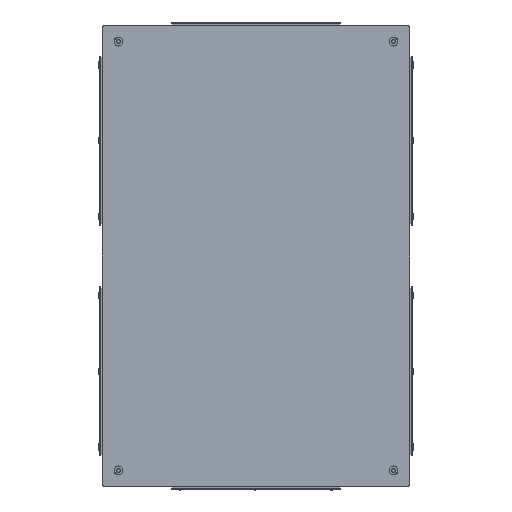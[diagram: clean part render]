
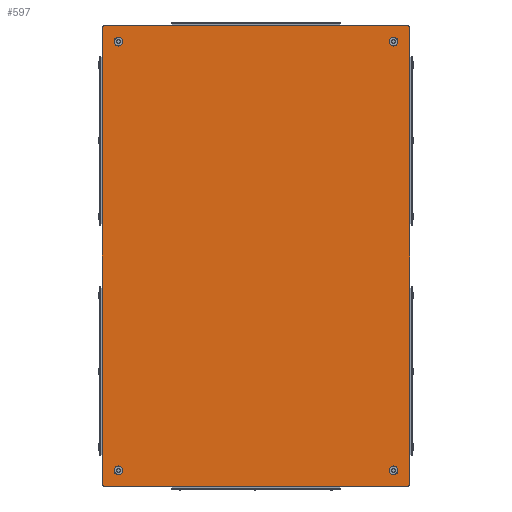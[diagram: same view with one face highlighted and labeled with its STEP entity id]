
A CAD part, front view. The second image highlights one B-rep face of the part: STEP entity #597.
In plain terms, the highlighted planar face has unit normal (0, -1, 0).
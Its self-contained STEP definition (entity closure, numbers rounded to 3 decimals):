
#597 = ADVANCED_FACE('',(#598,#618,#629,#649,#660),#782,.T.);
#598 = FACE_BOUND('',#599,.T.);
#599 = EDGE_LOOP('',(#600,#611));
#600 = ORIENTED_EDGE('',*,*,#601,.F.);
#601 = EDGE_CURVE('',#602,#604,#606,.T.);
#602 = VERTEX_POINT('',#603);
#603 = CARTESIAN_POINT('',(-179.,-1.2,-275.));
#604 = VERTEX_POINT('',#605);
#605 = CARTESIAN_POINT('',(-179.,-1.2,-283.));
#606 = CIRCLE('',#607,4.);
#607 = AXIS2_PLACEMENT_3D('',#608,#609,#610);
#608 = CARTESIAN_POINT('',(-179.,-1.2,-279.));
#609 = DIRECTION('',(0.,-1.,0.));
#610 = DIRECTION('',(0.,0.,1.));
#611 = ORIENTED_EDGE('',*,*,#612,.F.);
#612 = EDGE_CURVE('',#604,#602,#613,.T.);
#613 = CIRCLE('',#614,4.);
#614 = AXIS2_PLACEMENT_3D('',#615,#616,#617);
#615 = CARTESIAN_POINT('',(-179.,-1.2,-279.));
#616 = DIRECTION('',(0.,-1.,0.));
#617 = DIRECTION('',(0.,0.,1.));
#618 = FACE_BOUND('',#619,.T.);
#619 = EDGE_LOOP('',(#620));
#620 = ORIENTED_EDGE('',*,*,#621,.F.);
#621 = EDGE_CURVE('',#622,#622,#624,.T.);
#622 = VERTEX_POINT('',#623);
#623 = CARTESIAN_POINT('',(179.,-1.2,-283.));
#624 = CIRCLE('',#625,4.);
#625 = AXIS2_PLACEMENT_3D('',#626,#627,#628);
#626 = CARTESIAN_POINT('',(179.,-1.2,-279.));
#627 = DIRECTION('',(0.,-1.,0.));
#628 = DIRECTION('',(0.,0.,-1.));
#629 = FACE_BOUND('',#630,.T.);
#630 = EDGE_LOOP('',(#631,#642));
#631 = ORIENTED_EDGE('',*,*,#632,.F.);
#632 = EDGE_CURVE('',#633,#635,#637,.T.);
#633 = VERTEX_POINT('',#634);
#634 = CARTESIAN_POINT('',(179.,-1.2,283.));
#635 = VERTEX_POINT('',#636);
#636 = CARTESIAN_POINT('',(179.,-1.2,275.));
#637 = CIRCLE('',#638,4.);
#638 = AXIS2_PLACEMENT_3D('',#639,#640,#641);
#639 = CARTESIAN_POINT('',(179.,-1.2,279.));
#640 = DIRECTION('',(0.,-1.,0.));
#641 = DIRECTION('',(0.,0.,1.));
#642 = ORIENTED_EDGE('',*,*,#643,.F.);
#643 = EDGE_CURVE('',#635,#633,#644,.T.);
#644 = CIRCLE('',#645,4.);
#645 = AXIS2_PLACEMENT_3D('',#646,#647,#648);
#646 = CARTESIAN_POINT('',(179.,-1.2,279.));
#647 = DIRECTION('',(0.,-1.,0.));
#648 = DIRECTION('',(0.,0.,1.));
#649 = FACE_BOUND('',#650,.T.);
#650 = EDGE_LOOP('',(#651));
#651 = ORIENTED_EDGE('',*,*,#652,.F.);
#652 = EDGE_CURVE('',#653,#653,#655,.T.);
#653 = VERTEX_POINT('',#654);
#654 = CARTESIAN_POINT('',(-179.,-1.2,275.));
#655 = CIRCLE('',#656,4.);
#656 = AXIS2_PLACEMENT_3D('',#657,#658,#659);
#657 = CARTESIAN_POINT('',(-179.,-1.2,279.));
#658 = DIRECTION('',(0.,-1.,0.));
#659 = DIRECTION('',(0.,0.,-1.));
#660 = FACE_BOUND('',#661,.T.);
#661 = EDGE_LOOP('',(#662,#675,#686,#694,#705,#716,#724,#735,#746,#754,
    #765,#776));
#662 = ORIENTED_EDGE('',*,*,#663,.F.);
#663 = EDGE_CURVE('',#664,#666,#668,.T.);
#664 = VERTEX_POINT('',#665);
#665 = CARTESIAN_POINT('',(198.2,-1.2,298.2));
#666 = VERTEX_POINT('',#667);
#667 = CARTESIAN_POINT('',(200.,-1.2,298.574));
#668 = B_SPLINE_CURVE_WITH_KNOTS('',3,(#669,#670,#671,#672,#673,#674),
  .UNSPECIFIED.,.F.,.F.,(4,2,4),(0.004,0.005,
    0.006),.UNSPECIFIED.);
#669 = CARTESIAN_POINT('',(198.2,-1.2,298.2));
#670 = CARTESIAN_POINT('',(198.495,-1.2,298.287));
#671 = CARTESIAN_POINT('',(198.79,-1.2,298.371));
#672 = CARTESIAN_POINT('',(199.39,-1.2,298.498));
#673 = CARTESIAN_POINT('',(199.695,-1.2,298.543));
#674 = CARTESIAN_POINT('',(200.,-1.2,298.574));
#675 = ORIENTED_EDGE('',*,*,#676,.T.);
#676 = EDGE_CURVE('',#664,#677,#679,.T.);
#677 = VERTEX_POINT('',#678);
#678 = CARTESIAN_POINT('',(198.574,-1.2,300.));
#679 = B_SPLINE_CURVE_WITH_KNOTS('',3,(#680,#681,#682,#683,#684,#685),
  .UNSPECIFIED.,.F.,.F.,(4,2,4),(0.004,0.005,
    0.006),.UNSPECIFIED.);
#680 = CARTESIAN_POINT('',(198.2,-1.2,298.2));
#681 = CARTESIAN_POINT('',(198.287,-1.2,298.495));
#682 = CARTESIAN_POINT('',(198.371,-1.2,298.79));
#683 = CARTESIAN_POINT('',(198.498,-1.2,299.39));
#684 = CARTESIAN_POINT('',(198.543,-1.2,299.695));
#685 = CARTESIAN_POINT('',(198.574,-1.2,300.));
#686 = ORIENTED_EDGE('',*,*,#687,.T.);
#687 = EDGE_CURVE('',#677,#688,#690,.T.);
#688 = VERTEX_POINT('',#689);
#689 = CARTESIAN_POINT('',(-198.574,-1.2,300.));
#690 = LINE('',#691,#692);
#691 = CARTESIAN_POINT('',(3200.,-1.2,300.));
#692 = VECTOR('',#693,1.);
#693 = DIRECTION('',(-1.,0.,0.));
#694 = ORIENTED_EDGE('',*,*,#695,.F.);
#695 = EDGE_CURVE('',#696,#688,#698,.T.);
#696 = VERTEX_POINT('',#697);
#697 = CARTESIAN_POINT('',(-198.2,-1.2,298.2));
#698 = B_SPLINE_CURVE_WITH_KNOTS('',3,(#699,#700,#701,#702,#703,#704),
  .UNSPECIFIED.,.F.,.F.,(4,2,4),(0.004,0.005,
    0.006),.UNSPECIFIED.);
#699 = CARTESIAN_POINT('',(-198.2,-1.2,298.2));
#700 = CARTESIAN_POINT('',(-198.287,-1.2,298.495));
#701 = CARTESIAN_POINT('',(-198.371,-1.2,298.79));
#702 = CARTESIAN_POINT('',(-198.498,-1.2,299.39));
#703 = CARTESIAN_POINT('',(-198.543,-1.2,299.695));
#704 = CARTESIAN_POINT('',(-198.574,-1.2,300.));
#705 = ORIENTED_EDGE('',*,*,#706,.T.);
#706 = EDGE_CURVE('',#696,#707,#709,.T.);
#707 = VERTEX_POINT('',#708);
#708 = CARTESIAN_POINT('',(-200.,-1.2,298.574));
#709 = B_SPLINE_CURVE_WITH_KNOTS('',3,(#710,#711,#712,#713,#714,#715),
  .UNSPECIFIED.,.F.,.F.,(4,2,4),(0.004,0.005,
    0.006),.UNSPECIFIED.);
#710 = CARTESIAN_POINT('',(-198.2,-1.2,298.2));
#711 = CARTESIAN_POINT('',(-198.495,-1.2,298.287));
#712 = CARTESIAN_POINT('',(-198.79,-1.2,298.371));
#713 = CARTESIAN_POINT('',(-199.39,-1.2,298.498));
#714 = CARTESIAN_POINT('',(-199.695,-1.2,298.543));
#715 = CARTESIAN_POINT('',(-200.,-1.2,298.574));
#716 = ORIENTED_EDGE('',*,*,#717,.T.);
#717 = EDGE_CURVE('',#707,#718,#720,.T.);
#718 = VERTEX_POINT('',#719);
#719 = CARTESIAN_POINT('',(-200.,-1.2,-298.574));
#720 = LINE('',#721,#722);
#721 = CARTESIAN_POINT('',(-200.,-1.2,3300.));
#722 = VECTOR('',#723,1.);
#723 = DIRECTION('',(0.,0.,-1.));
#724 = ORIENTED_EDGE('',*,*,#725,.F.);
#725 = EDGE_CURVE('',#726,#718,#728,.T.);
#726 = VERTEX_POINT('',#727);
#727 = CARTESIAN_POINT('',(-198.2,-1.2,-298.2));
#728 = B_SPLINE_CURVE_WITH_KNOTS('',3,(#729,#730,#731,#732,#733,#734),
  .UNSPECIFIED.,.F.,.F.,(4,2,4),(0.004,0.005,
    0.006),.UNSPECIFIED.);
#729 = CARTESIAN_POINT('',(-198.2,-1.2,-298.2));
#730 = CARTESIAN_POINT('',(-198.495,-1.2,-298.287));
#731 = CARTESIAN_POINT('',(-198.79,-1.2,-298.371));
#732 = CARTESIAN_POINT('',(-199.39,-1.2,-298.498));
#733 = CARTESIAN_POINT('',(-199.695,-1.2,-298.543));
#734 = CARTESIAN_POINT('',(-200.,-1.2,-298.574));
#735 = ORIENTED_EDGE('',*,*,#736,.T.);
#736 = EDGE_CURVE('',#726,#737,#739,.T.);
#737 = VERTEX_POINT('',#738);
#738 = CARTESIAN_POINT('',(-198.574,-1.2,-300.));
#739 = B_SPLINE_CURVE_WITH_KNOTS('',3,(#740,#741,#742,#743,#744,#745),
  .UNSPECIFIED.,.F.,.F.,(4,2,4),(0.004,0.005,
    0.006),.UNSPECIFIED.);
#740 = CARTESIAN_POINT('',(-198.2,-1.2,-298.2));
#741 = CARTESIAN_POINT('',(-198.287,-1.2,-298.495));
#742 = CARTESIAN_POINT('',(-198.371,-1.2,-298.79));
#743 = CARTESIAN_POINT('',(-198.498,-1.2,-299.39));
#744 = CARTESIAN_POINT('',(-198.543,-1.2,-299.695));
#745 = CARTESIAN_POINT('',(-198.574,-1.2,-300.));
#746 = ORIENTED_EDGE('',*,*,#747,.T.);
#747 = EDGE_CURVE('',#737,#748,#750,.T.);
#748 = VERTEX_POINT('',#749);
#749 = CARTESIAN_POINT('',(198.574,-1.2,-300.));
#750 = LINE('',#751,#752);
#751 = CARTESIAN_POINT('',(-3200.,-1.2,-300.));
#752 = VECTOR('',#753,1.);
#753 = DIRECTION('',(1.,0.,0.));
#754 = ORIENTED_EDGE('',*,*,#755,.F.);
#755 = EDGE_CURVE('',#756,#748,#758,.T.);
#756 = VERTEX_POINT('',#757);
#757 = CARTESIAN_POINT('',(198.2,-1.2,-298.2));
#758 = B_SPLINE_CURVE_WITH_KNOTS('',3,(#759,#760,#761,#762,#763,#764),
  .UNSPECIFIED.,.F.,.F.,(4,2,4),(0.004,0.005,
    0.006),.UNSPECIFIED.);
#759 = CARTESIAN_POINT('',(198.2,-1.2,-298.2));
#760 = CARTESIAN_POINT('',(198.287,-1.2,-298.495));
#761 = CARTESIAN_POINT('',(198.371,-1.2,-298.79));
#762 = CARTESIAN_POINT('',(198.498,-1.2,-299.39));
#763 = CARTESIAN_POINT('',(198.543,-1.2,-299.695));
#764 = CARTESIAN_POINT('',(198.574,-1.2,-300.));
#765 = ORIENTED_EDGE('',*,*,#766,.T.);
#766 = EDGE_CURVE('',#756,#767,#769,.T.);
#767 = VERTEX_POINT('',#768);
#768 = CARTESIAN_POINT('',(200.,-1.2,-298.574));
#769 = B_SPLINE_CURVE_WITH_KNOTS('',3,(#770,#771,#772,#773,#774,#775),
  .UNSPECIFIED.,.F.,.F.,(4,2,4),(0.004,0.005,
    0.006),.UNSPECIFIED.);
#770 = CARTESIAN_POINT('',(198.2,-1.2,-298.2));
#771 = CARTESIAN_POINT('',(198.495,-1.2,-298.287));
#772 = CARTESIAN_POINT('',(198.79,-1.2,-298.371));
#773 = CARTESIAN_POINT('',(199.39,-1.2,-298.498));
#774 = CARTESIAN_POINT('',(199.695,-1.2,-298.543));
#775 = CARTESIAN_POINT('',(200.,-1.2,-298.574));
#776 = ORIENTED_EDGE('',*,*,#777,.T.);
#777 = EDGE_CURVE('',#767,#666,#778,.T.);
#778 = LINE('',#779,#780);
#779 = CARTESIAN_POINT('',(200.,-1.2,-3300.));
#780 = VECTOR('',#781,1.);
#781 = DIRECTION('',(0.,0.,1.));
#782 = PLANE('',#783);
#783 = AXIS2_PLACEMENT_3D('',#784,#785,#786);
#784 = CARTESIAN_POINT('',(0.,-1.2,0.));
#785 = DIRECTION('',(0.,-1.,0.));
#786 = DIRECTION('',(0.,-0.,-1.));
